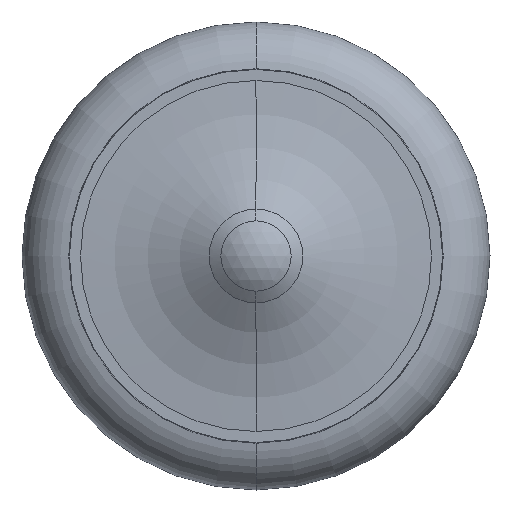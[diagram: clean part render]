
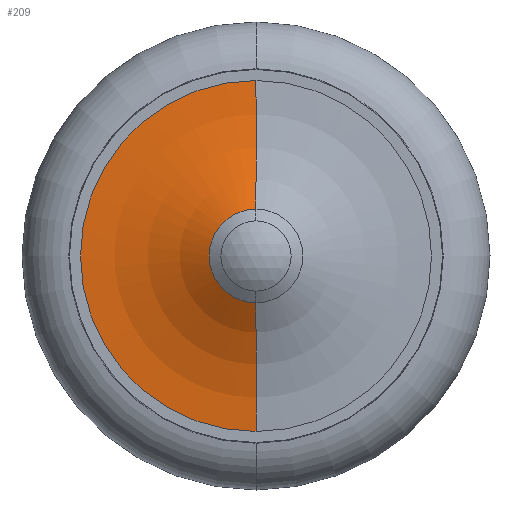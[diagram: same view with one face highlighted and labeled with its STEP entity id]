
A CAD part, front view. The second image highlights one B-rep face of the part: STEP entity #209.
In plain terms, the highlighted toroidal (fillet/blend) face has major radius 15 mm and minor radius 20 mm.
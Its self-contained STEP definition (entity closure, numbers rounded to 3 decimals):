
#191 = VERTEX_POINT( '', #483 );
#197 = EDGE_CURVE( '', #305, #191, #489, .T. );
#209 = ADVANCED_FACE( '', ( #502 ), #503, .F. );
#257 = EDGE_CURVE( '', #317, #305, #556, .T. );
#259 = VERTEX_POINT( '', #558 );
#305 = VERTEX_POINT( '', #607 );
#317 = VERTEX_POINT( '', #620 );
#359 = EDGE_CURVE( '', #191, #259, #666, .T. );
#427 = EDGE_CURVE( '', #317, #259, #741, .T. );
#483 = CARTESIAN_POINT( '', ( 0., -30.5, 15. ) );
#489 = CIRCLE( '', #805, 15. );
#502 = FACE_OUTER_BOUND( '', #820, .T. );
#503 = TOROIDAL_SURFACE( '', #821, 15., 20. );
#556 = CIRCLE( '', #888, 20. );
#558 = CARTESIAN_POINT( '', ( 0., -33.797, 4. ) );
#607 = CARTESIAN_POINT( '', ( 0., -30.5, -15. ) );
#620 = CARTESIAN_POINT( '', ( 0., -33.797, -4. ) );
#666 = CIRCLE( '', #1020, 20. );
#741 = CIRCLE( '', #1119, 4. );
#805 = AXIS2_PLACEMENT_3D( '', #1189, #1190, #1191 );
#820 = EDGE_LOOP( '', ( #1208, #1209, #1210, #1211 ) );
#821 = AXIS2_PLACEMENT_3D( '', #1212, #1213, #1214 );
#888 = AXIS2_PLACEMENT_3D( '', #1293, #1294, #1295 );
#1020 = AXIS2_PLACEMENT_3D( '', #1419, #1420, #1421 );
#1119 = AXIS2_PLACEMENT_3D( '', #1528, #1529, #1530 );
#1189 = CARTESIAN_POINT( '', ( 0., -30.5, 0. ) );
#1190 = DIRECTION( '', ( 0., 1., 0. ) );
#1191 = DIRECTION( '', ( 1., 0., 0. ) );
#1208 = ORIENTED_EDGE( '', *, *, #257, .F. );
#1209 = ORIENTED_EDGE( '', *, *, #427, .T. );
#1210 = ORIENTED_EDGE( '', *, *, #359, .F. );
#1211 = ORIENTED_EDGE( '', *, *, #197, .F. );
#1212 = CARTESIAN_POINT( '', ( 0., -50.5, 0. ) );
#1213 = DIRECTION( '', ( 0., 1., 0. ) );
#1214 = DIRECTION( '', ( 0., 0., 1. ) );
#1293 = CARTESIAN_POINT( '', ( 0., -50.5, -15. ) );
#1294 = DIRECTION( '', ( -1., 0., 0. ) );
#1295 = DIRECTION( '', ( 0., 0., -1. ) );
#1419 = CARTESIAN_POINT( '', ( 0., -50.5, 15. ) );
#1420 = DIRECTION( '', ( -1., 0., 0. ) );
#1421 = DIRECTION( '', ( 0., 0., 1. ) );
#1528 = CARTESIAN_POINT( '', ( 0., -33.797, 0. ) );
#1529 = DIRECTION( '', ( 0., 1., 0. ) );
#1530 = DIRECTION( '', ( 1., 0., 0. ) );
